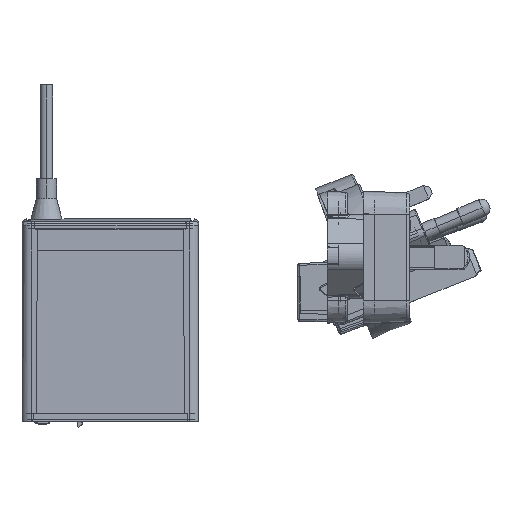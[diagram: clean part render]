
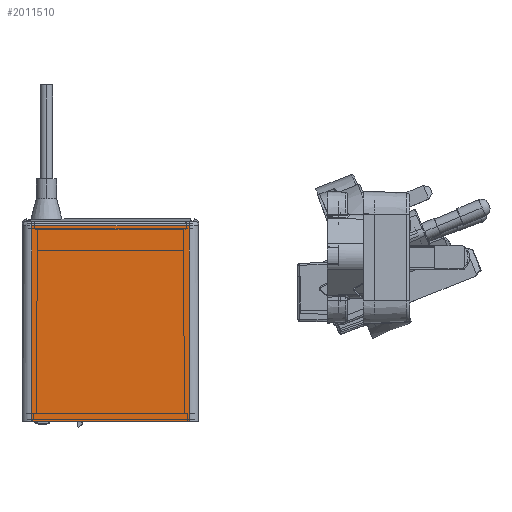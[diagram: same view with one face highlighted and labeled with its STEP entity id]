
A CAD part, top view. The second image highlights one B-rep face of the part: STEP entity #2011510.
In plain terms, the highlighted planar face has unit normal (0, 0.002, 1) as drawn and (-1, 0, -0.002) by its records, which use the part's own axes.
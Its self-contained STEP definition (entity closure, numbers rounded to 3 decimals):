
#2007920=CARTESIAN_POINT('',(-40.171,11.392,
0.));
#2007930=VERTEX_POINT('',#2007920);
#2007960=CARTESIAN_POINT('',(-40.171,11.392,
0.));
#2007970=DIRECTION('',(0.,1.,0.));
#2007980=VECTOR('',#2007970,1.);
#2007990=LINE('',#2007960,#2007980);
#2008000=CARTESIAN_POINT('',(-40.171,54.608,
0.));
#2008010=VERTEX_POINT('',#2008000);
#2008020=EDGE_CURVE('',#2007930,#2008010,#2007990,.T.);
#2011150=CARTESIAN_POINT('',(-40.077,11.486,
-53.331));
#2011160=VERTEX_POINT('',#2011150);
#2011190=CARTESIAN_POINT('',(-40.077,11.486,
-53.331));
#2011200=DIRECTION('',(-0.002,-0.002,
1.));
#2011210=VECTOR('',#2011200,1.);
#2011220=LINE('',#2011190,#2011210);
#2011230=EDGE_CURVE('',#2011160,#2007930,#2011220,.T.);
#2011280=CARTESIAN_POINT('',(-40.171,33.,
0.));
#2011290=DIRECTION('',(-1.,0.,
-0.002));
#2011300=DIRECTION('',(-0.002,0.,1.));
#2011310=AXIS2_PLACEMENT_3D('',#2011280,#2011290,#2011300);
#2011320=PLANE('',#2011310);
#2011330=ORIENTED_EDGE('',*,*,#2008020,.T.);
#2011340=ORIENTED_EDGE('',*,*,#2011230,.T.);
#2011350=CARTESIAN_POINT('',(-40.077,11.486,
-53.331));
#2011360=DIRECTION('',(0.,1.,0.));
#2011370=VECTOR('',#2011360,1.);
#2011380=LINE('',#2011350,#2011370);
#2011390=CARTESIAN_POINT('',(-40.077,54.514,
-53.331));
#2011400=VERTEX_POINT('',#2011390);
#2011410=EDGE_CURVE('',#2011160,#2011400,#2011380,.T.);
#2011420=ORIENTED_EDGE('',*,*,#2011410,.F.);
#2011430=CARTESIAN_POINT('',(-40.171,54.608,
0.));
#2011440=DIRECTION('',(0.002,-0.002,
-1.));
#2011450=VECTOR('',#2011440,1.);
#2011460=LINE('',#2011430,#2011450);
#2011470=EDGE_CURVE('',#2008010,#2011400,#2011460,.T.);
#2011480=ORIENTED_EDGE('',*,*,#2011470,.T.);
#2011490=EDGE_LOOP('',(#2011480,#2011420,#2011340,#2011330));
#2011500=FACE_OUTER_BOUND('',#2011490,.T.);
#2011510=ADVANCED_FACE('',(#2011500),#2011320,.T.);
